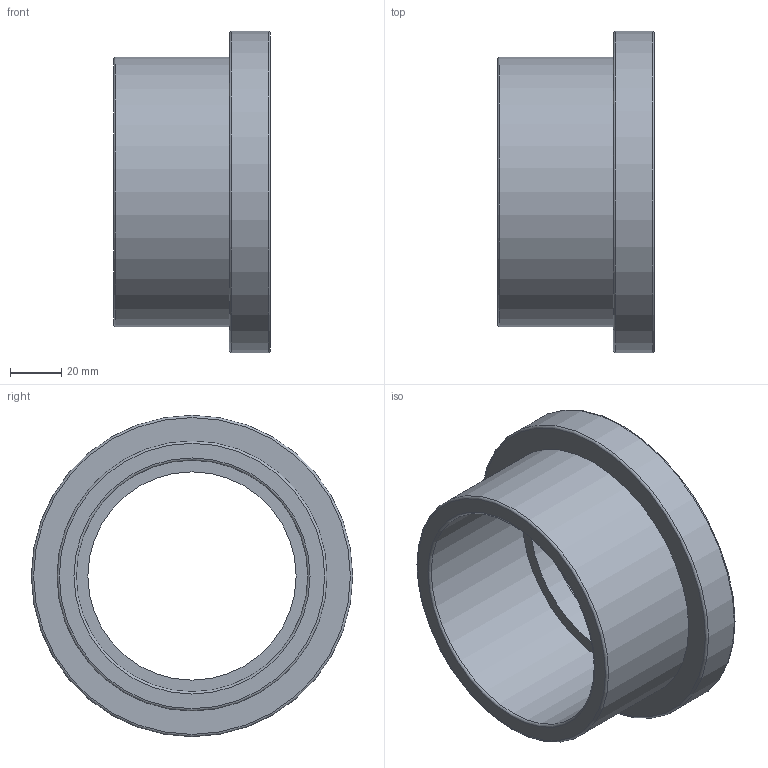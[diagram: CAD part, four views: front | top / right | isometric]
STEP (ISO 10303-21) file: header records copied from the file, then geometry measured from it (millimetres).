
FILE_DESCRIPTION(/* description */ ('PLASSON FLANGE AD.+O-RING-CE 90'),/* implementation_level */ '2;1');
FILE_NAME(/* name */ 'C:\Dropbox\KIMPROJECTS-Inventor\99-16-3568-Processing\PVC Catalog 2017\055000\055000090.ipt.stp',/* time_stamp */ '2017-12-07T16:04:41+02:00',/* author */ ('KIM'),/* organization */ (''),/* preprocessor_version */ 'ST-DEVELOPER v15.6',/* originating_system */ 'Autodesk Inventor 2015',/* authorisation */ '');
FILE_SCHEMA (('AUTOMOTIVE_DESIGN { 1 0 10303 214 3 1 1 }'));
Length unit declared in the file: millimetre
Products named in the file (1): 055000090
Bounding box: 61 x 125 x 125 mm (x, y, z)
Volume: 199489.1 mm3; surface area: 54297.3 mm2
Topology: 1 solids, 1 shells, 21 faces, 36 edges, 21 vertices
Faces by surface type: torus 9, plane 6, cylinder 6
Full cylindrical faces by diameter (mm): 81 x1, 90 x1, 96.4 x1, 105 x1, 109.6 x1, 125 x1
Entity records: 452 total; most frequent: DIRECTION 86, CARTESIAN_POINT 64, AXIS2_PLACEMENT_3D 43, EDGE_LOOP 42, ORIENTED_EDGE 42, FACE_BOUND 21, FACE_OUTER_BOUND 21, CIRCLE 21
